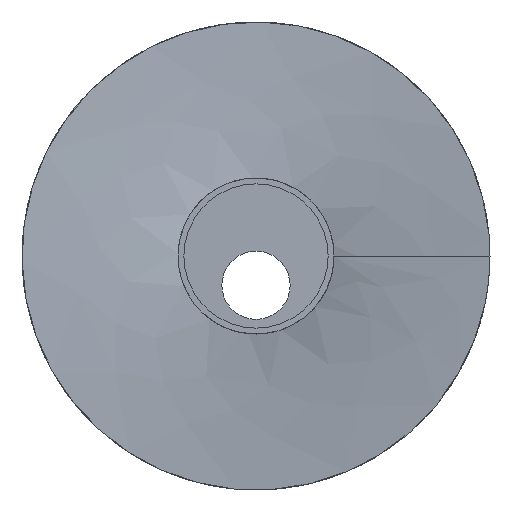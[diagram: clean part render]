
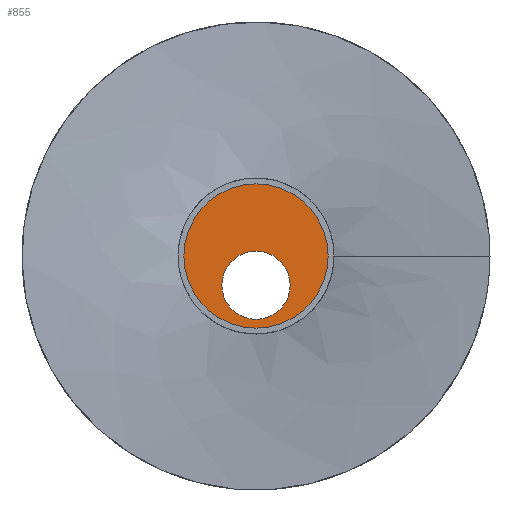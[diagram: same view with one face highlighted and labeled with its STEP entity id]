
A CAD part, front view. The second image highlights one B-rep face of the part: STEP entity #855.
In plain terms, the highlighted planar face has unit normal (0, -1, 0).
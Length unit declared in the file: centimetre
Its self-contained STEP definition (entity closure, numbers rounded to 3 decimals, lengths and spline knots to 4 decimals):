
#361=VERTEX_POINT('',#3604);
#362=VERTEX_POINT('',#3606);
#456=EDGE_CURVE('',#361,#361,#1052,.T.);
#457=EDGE_CURVE('',#362,#362,#1053,.T.);
#637=ORIENTED_EDGE('',*,*,#456,.F.);
#638=ORIENTED_EDGE('',*,*,#457,.F.);
#730=EDGE_LOOP('',(#637));
#731=EDGE_LOOP('',(#638));
#802=FACE_BOUND('',#730,.T.);
#803=FACE_BOUND('',#731,.T.);
#855=ADVANCED_FACE('',(#802,#803),#2155,.F.);
#1052=CIRCLE('',#1998,1.75);
#1053=CIRCLE('',#1999,3.7);
#1997=AXIS2_PLACEMENT_3D('',#3602,#6426,$);
#1998=AXIS2_PLACEMENT_3D('',#3603,#6427,#6428);
#1999=AXIS2_PLACEMENT_3D('',#3605,#6429,#6430);
#2155=PLANE('',#1997);
#3602=CARTESIAN_POINT('',(0.,5.7,0.));
#3603=CARTESIAN_POINT('',(0.,5.7,-1.5));
#3604=CARTESIAN_POINT('',(1.75,5.7,-1.5));
#3605=CARTESIAN_POINT('',(0.,5.7,0.));
#3606=CARTESIAN_POINT('',(-3.7,5.7,0.));
#6426=DIRECTION('',(0.,1.,0.));
#6427=DIRECTION('',(0.,-1.,0.));
#6428=DIRECTION('',(1.75,0.,0.));
#6429=DIRECTION('',(0.,1.,0.));
#6430=DIRECTION('',(3.7,0.,0.));
